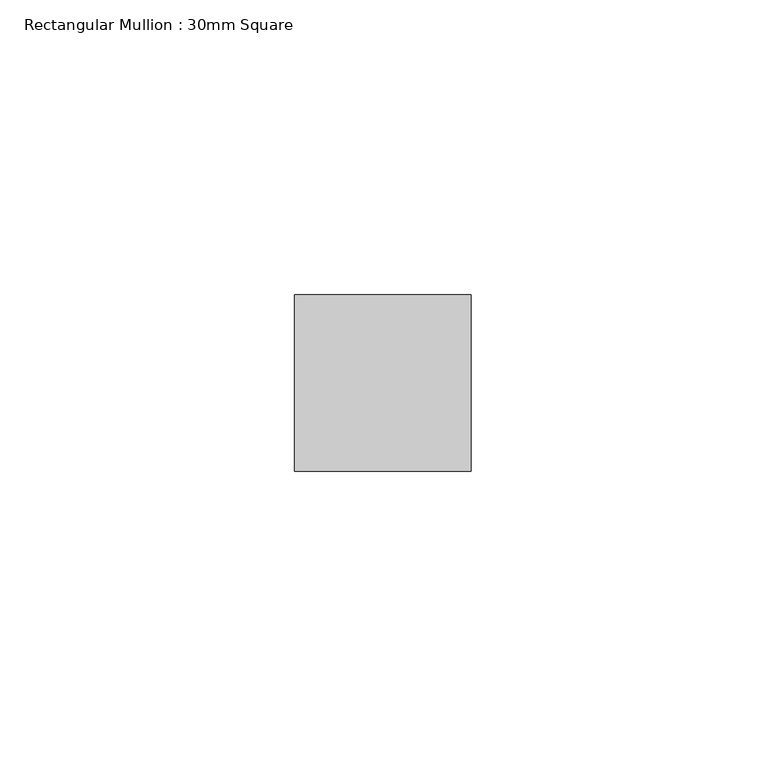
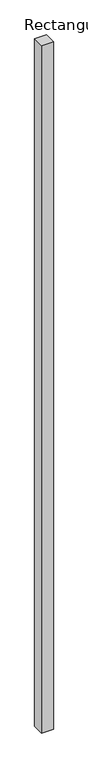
"""IFC4 building model written with IfcOpenShell, lengths in millimetres: member geometry, Rectangular Mullion : 30mm Square."""

from ifc_helpers import new_model, si_unit, frame, origin, place, context, project, spatial, polyline, outline, extrude, source, transform, mapped, element, save


def rectangular_mullion_30mm_square_7e50c00b(model_context):
    return source(origin(), model_context, "Body", "SweptSolid", [
        extrude(outline(polyline([(0.0, 15.0), (0.0, -15.0), (-30.0, -15.0), (-30.0, 15.0), (0.0, 15.0)])), frame((0.0, 0.0, -1850.0), z_axis=(0.0, 0.0, 1.0), x_axis=(1.0, 0.0, 0.0)), (0.0, 0.0, 1.0), 1850.0),
    ])


if __name__ == "__main__":
    model = new_model("IFC4")
    model_context = context("Model", 3, world=origin())
    ifc_project = project(units=[si_unit("LENGTHUNIT", "METRE", prefix="MILLI")], contexts=[model_context])
    site = spatial("IfcSite", under=ifc_project)
    building = spatial("IfcBuilding", under=site)
    placement = place(None, origin())
    rectangular_mullion_30mm_square_shape = rectangular_mullion_30mm_square_7e50c00b(model_context)
    element("IfcMember", 1, ObjectType="Rectangular Mullion : 30mm Square", at=placement, inside=building, context=model_context, shape_type="MappedRepresentation", body=[
        mapped(rectangular_mullion_30mm_square_shape, transform((0.0, 0.0, 0.0), x_axis=(1.0, 0.0, 0.0), y_axis=(0.0, 1.0, 0.0), z_axis=(0.0, 0.0, 1.0))),
    ])
    save(model, "model.ifc")
